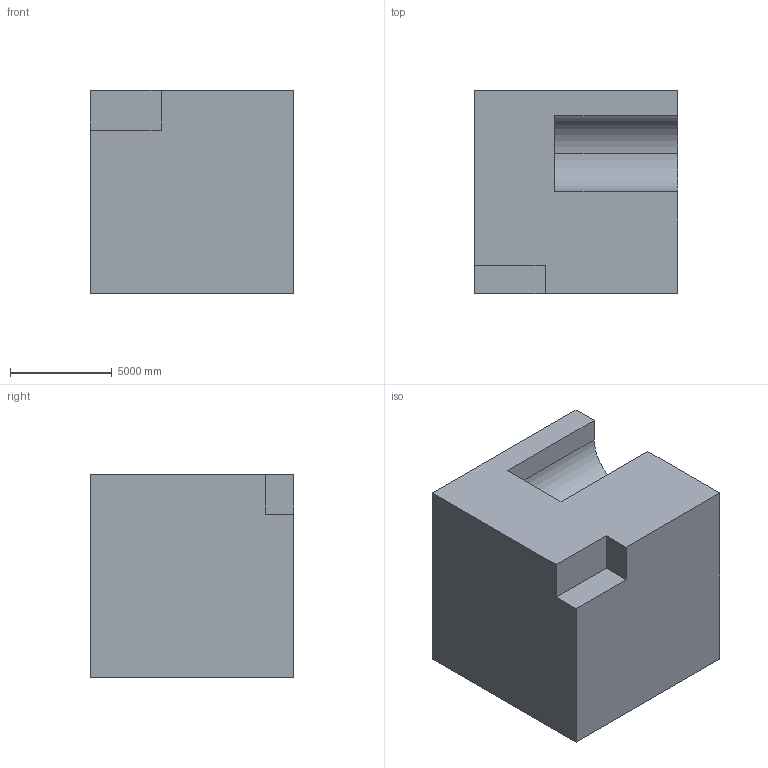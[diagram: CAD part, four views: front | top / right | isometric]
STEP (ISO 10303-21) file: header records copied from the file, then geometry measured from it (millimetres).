
FILE_DESCRIPTION (( 'STEP AP203' ), '1' );
FILE_NAME ('125.STEP', '2022-07-28T13:40:44', ( 'user' ), ( '' ), 'SwSTEP 2.0', 'SolidWorks 2021', '' );
FILE_SCHEMA (( 'CONFIG_CONTROL_DESIGN' ));
Length unit declared in the file: centimetre
Products named in the file (1): 125
Bounding box: 10000 x 10000 x 10000 mm (x, y, z)
Volume: 931555714280.1 mm3; surface area: 626756034.1 mm2
Topology: 1 solids, 1 shells, 14 faces, 36 edges, 24 vertices
Faces by surface type: plane 12, cylinder 2
Entity records: 501 total; most frequent: CARTESIAN_POINT 75, ORIENTED_EDGE 72, DIRECTION 70, EDGE_CURVE 36, LINE 32, VECTOR 32, VERTEX_POINT 24, AXIS2_PLACEMENT_3D 19
